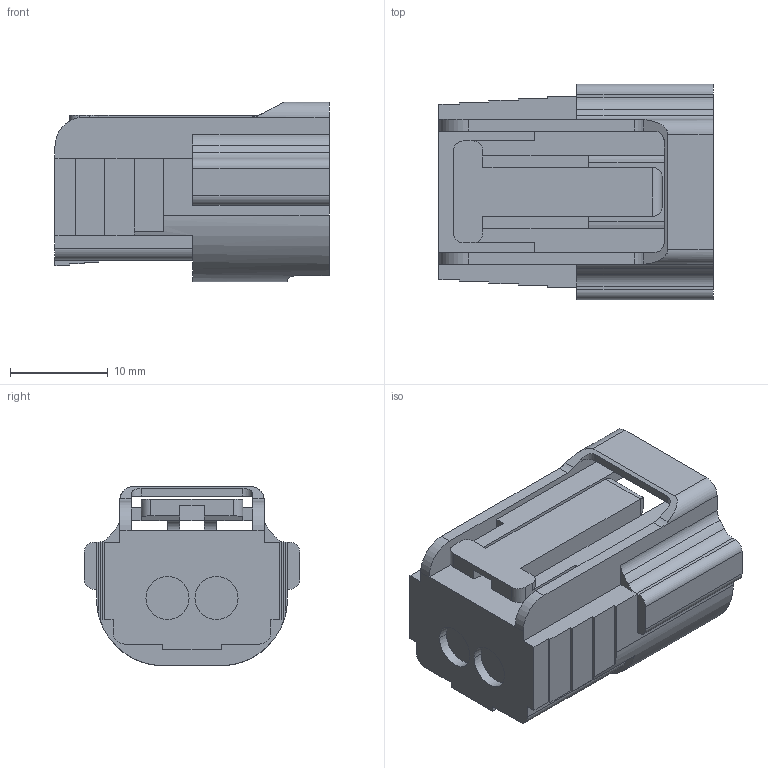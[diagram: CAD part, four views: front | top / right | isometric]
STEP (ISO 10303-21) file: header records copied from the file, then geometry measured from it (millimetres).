
FILE_DESCRIPTION(('CATIA V5 STEP Exchange','CAx-IF Rec.Pracs.--- Model Styling and Organization---1.2---2011-12-15'),'2;1');
FILE_NAME('N:\C-DAM_MyDesk\ENV\900093\6195-0043.stp','2015-06-24T23:49:11+00:00',('none'),('none'),'CATIA Version 5-6 Release 2012 SP4 HF74','CATIA V5 STEP AP214','none');
FILE_SCHEMA(('AUTOMOTIVE_DESIGN { 1 0 10303 214 1 1 1 1 }'));
Length unit declared in the file: millimetre
Products named in the file (1): 6195-0043
Bounding box: 28 x 22 x 18.3 mm (x, y, z)
Volume: 5051.5 mm3; surface area: 4073 mm2
Topology: 1 solids, 1 shells, 159 faces, 470 edges, 312 vertices
Faces by surface type: plane 114, cylinder 43, bspline 2
Entity records: 5198 total; most frequent: CARTESIAN_POINT 1077, ORIENTED_EDGE 940, DIRECTION 704, EDGE_CURVE 470, VECTOR 370, LINE 370, VERTEX_POINT 312, AXIS2_PLACEMENT_3D 207
